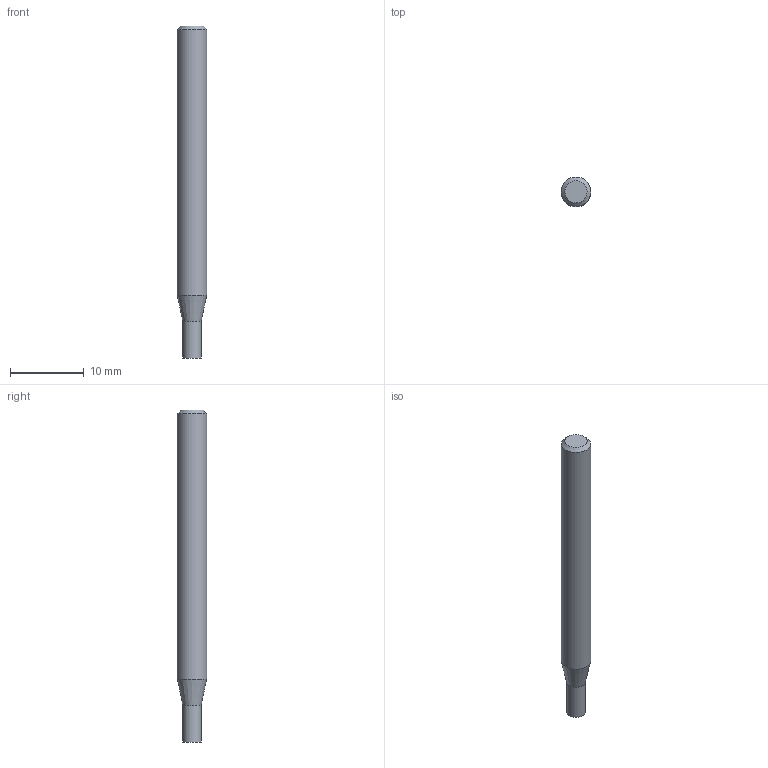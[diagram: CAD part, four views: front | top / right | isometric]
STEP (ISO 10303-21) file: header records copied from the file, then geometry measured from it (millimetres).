
FILE_DESCRIPTION((''),'2;1');
FILE_NAME('C:\Users\nsx150\AppData\Local\Temp\Mastercam 2021\E36A1X9CCL\TEMP.step','2023-04-21T15:12:32',(''),(''),'STEP Write','Mastercam 2021 ... CNC Software, Inc.','');
FILE_SCHEMA(('AUTOMOTIVE_DESIGN'));
Length unit declared in the file: millimetre
Products named in the file (1): None
Bounding box: 4 x 4 x 45 mm (x, y, z)
Volume: 511.2 mm3; surface area: 557.7 mm2
Topology: 2 solids, 2 shells, 8 faces, 10 edges, 6 vertices
Faces by surface type: plane 4, cylinder 2, cone 2
Full cylindrical faces by diameter (mm): 2.5 x1, 4 x1
Entity records: 190 total; most frequent: DIRECTION 32, CARTESIAN_POINT 22, AXIS2_PLACEMENT_3D 16, ORIENTED_EDGE 12, EDGE_LOOP 12, STYLED_ITEM 11, ADVANCED_FACE 8, VERTEX_POINT 6
